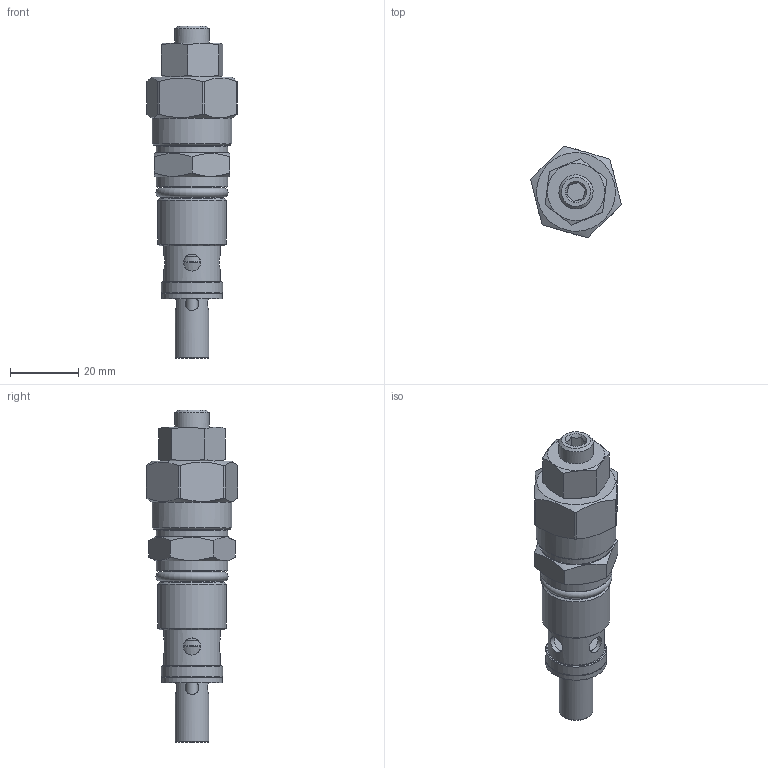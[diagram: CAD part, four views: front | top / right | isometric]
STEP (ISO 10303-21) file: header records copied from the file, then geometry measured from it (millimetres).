
FILE_DESCRIPTION(/* description */ ('Unknown'),/* implementation_level */ '2;1');
FILE_NAME(/* name */ 'VMC30',/* time_stamp */ '2024-12-05T10:44:21+01:00',/* author */ ('Unknown'),/* organization */ ('Unknown'),/* preprocessor_version */ 'ST-DEVELOPER v19.4',/* originating_system */ 'Solid Edge',/* authorisation */ 'Unknown');
FILE_SCHEMA (('AUTOMOTIVE_DESIGN {1 0 10303 214 3 1 1}'));
Length unit declared in the file: millimetre
Products named in the file (1): VMC30
Bounding box: 26.5 x 26.7 x 97.35 mm (x, y, z)
Volume: 23113 mm3; surface area: 13214.8 mm2
Topology: 2 solids, 2 shells, 130 faces, 298 edges, 195 vertices
Faces by surface type: plane 55, cylinder 41, cone 29, torus 4, bspline 1
Full cylindrical faces by diameter (mm): 2.498 x1, 3.497 x1, 3.8 x1, 4 x4, 4.955 x1, 5 x4, 5.295 x1, 5.924 x1, 6 x1, 6.893 x1, 7.562 x1, 9.5 x1, 9.9 x1, 10 x1, 10.3 x1, 11.988 x1, 12.987 x1, 13.97 x1, 14 x1, 16.7 x1, 17 x2, 17.8 x1, 17.92 x1, 20 x1, 20.92 x1, 20.955 x1, 21 x1, 23.4 x1
Entity records: 12281 total; most frequent: CARTESIAN_POINT 9156, DIRECTION 486, ORIENTED_EDGE 382, EDGE_LOOP 239, FACE_BOUND 239, AXIS2_PLACEMENT_3D 225, EDGE_CURVE 191, VERTEX_POINT 160
